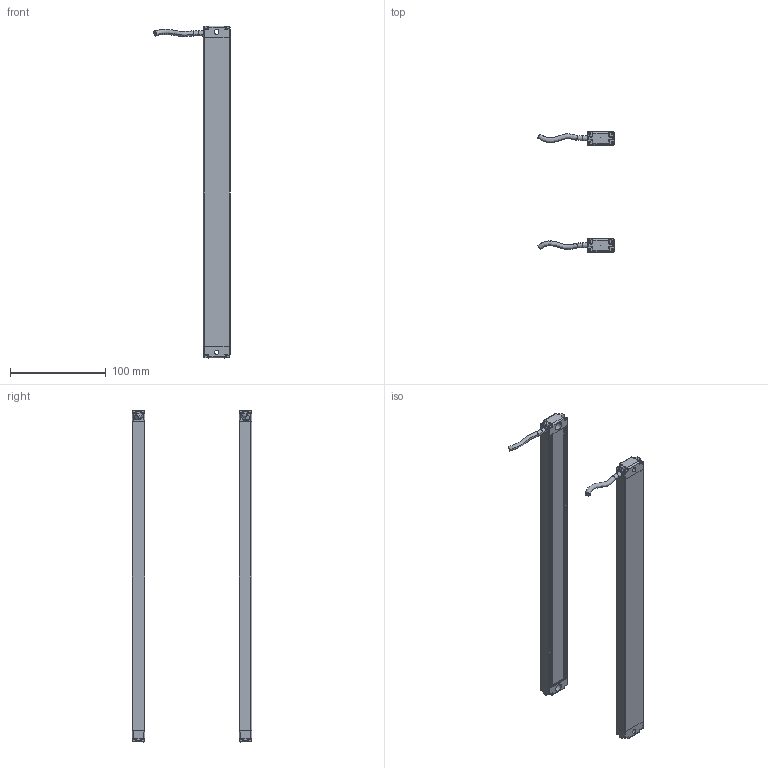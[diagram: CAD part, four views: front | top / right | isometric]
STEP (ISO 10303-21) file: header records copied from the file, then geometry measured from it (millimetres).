
FILE_DESCRIPTION(/* description */ (''),/* implementation_level */ '2;1');
FILE_NAME(/* name */ '0840（13x28w).stp',/* time_stamp */ '2020-07-14T20:05:02+08:00',/* author */ (''),/* organization */ (''),/* preprocessor_version */ 'ST-DEVELOPER v16',/* originating_system */ 'SIEMENS PLM Software NX 10.0',/* authorisation */ '');
FILE_SCHEMA (('AP203_CONFIGURATION_CONTROLLED_3D_DESIGN_OF_MECHANICAL_PARTS_AND_ASSEMBLIES_MIM_LF { 1 0 10303 403 2 1 2}'));
Length unit declared in the file: millimetre
Products named in the file (1): Admi58A03253m87k
Bounding box: 79.6 x 125.02 x 346 mm (x, y, z)
Volume: 103237.7 mm3; surface area: 136530 mm2
Topology: 10 solids, 10 shells, 760 faces, 2150 edges, 1419 vertices
Faces by surface type: plane 356, cylinder 312, torus 52, bspline 40
Entity records: 28299 total; most frequent: CARTESIAN_POINT 8763, ORIENTED_EDGE 4300, DIRECTION 3785, EDGE_CURVE 2150, VERTEX_POINT 1419, AXIS2_PLACEMENT_3D 1285, LINE 1215, VECTOR 1215
